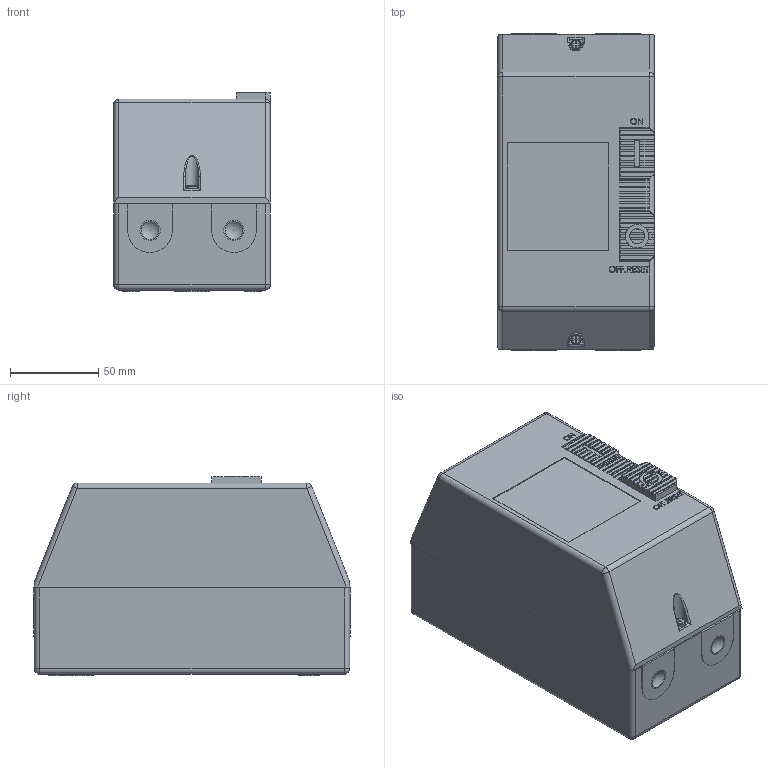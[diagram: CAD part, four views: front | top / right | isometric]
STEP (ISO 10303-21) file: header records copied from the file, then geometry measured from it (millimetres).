
FILE_DESCRIPTION (( 'STEP AP203' ), '1' );
FILE_NAME ('CP12-H5-4A.STEP', '2018-08-29T15:45:56', ( '' ), ( '' ), 'SwSTEP 2.0', 'SolidWorks 2012', '' );
FILE_SCHEMA (( 'CONFIG_CONTROL_DESIGN' ));
Length unit declared in the file: millimetre
Products named in the file (1): CP12-H5-4A
Bounding box: 89 x 180 x 113.5 mm (x, y, z)
Volume: 1611775.2 mm3; surface area: 93434.2 mm2
Topology: 1 solids, 1 shells, 480 faces, 1294 edges, 844 vertices
Faces by surface type: plane 354, cylinder 60, bspline 42, torus 12, sphere 12
Entity records: 17263 total; most frequent: CARTESIAN_POINT 5437, ORIENTED_EDGE 2556, DIRECTION 2218, EDGE_CURVE 1278, LINE 1008, VECTOR 1008, VERTEX_POINT 836, AXIS2_PLACEMENT_3D 605
